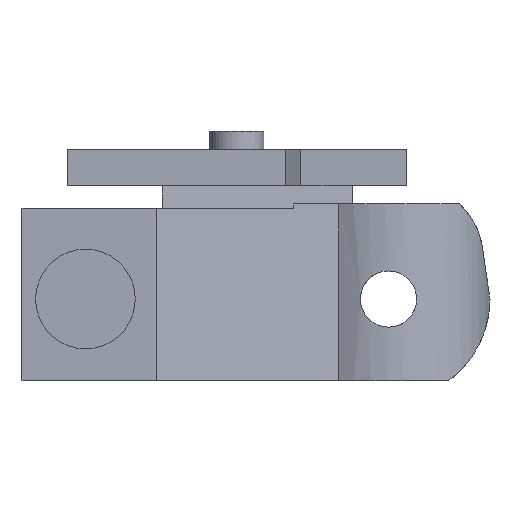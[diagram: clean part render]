
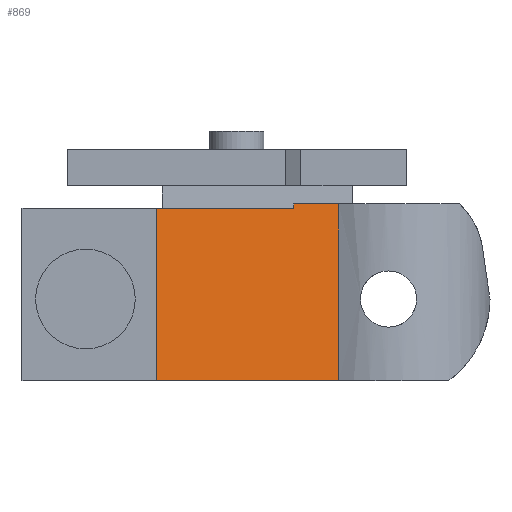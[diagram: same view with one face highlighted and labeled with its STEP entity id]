
A CAD part, front view. The second image highlights one B-rep face of the part: STEP entity #869.
In plain terms, the highlighted planar face has unit normal (0.255, -0.967, 0).
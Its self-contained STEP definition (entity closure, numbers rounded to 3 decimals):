
#40 = VECTOR ( 'NONE', #1418, 1000. ) ;
#116 = CARTESIAN_POINT ( 'NONE',  ( -11.025, -15.07, 36.5 ) ) ;
#121 = LINE ( 'NONE', #2401, #40 ) ;
#125 = CARTESIAN_POINT ( 'NONE',  ( 9.113, -9.75, 36.5 ) ) ;
#284 = ORIENTED_EDGE ( 'NONE', *, *, #3215, .F. ) ;
#437 = EDGE_CURVE ( 'NONE', #1628, #958, #734, .T. ) ;
#495 = VECTOR ( 'NONE', #2065, 1000. ) ;
#496 = CARTESIAN_POINT ( 'NONE',  ( -11.025, -15.07, 36.5 ) ) ;
#727 = VERTEX_POINT ( 'NONE', #1434 ) ;
#734 = LINE ( 'NONE', #1636, #2082 ) ;
#798 = CARTESIAN_POINT ( 'NONE',  ( -11.025, -15.07, 36. ) ) ;
#811 = EDGE_CURVE ( 'NONE', #1147, #3151, #121, .T. ) ;
#834 = AXIS2_PLACEMENT_3D ( 'NONE', #116, #1881, #914 ) ;
#869 = ADVANCED_FACE ( 'NONE', ( #2042 ), #3118, .T. ) ;
#914 = DIRECTION ( 'NONE',  ( 0.967, 0.255, 0. ) ) ;
#958 = VERTEX_POINT ( 'NONE', #2239 ) ;
#1099 = VECTOR ( 'NONE', #2404, 1000. ) ;
#1147 = VERTEX_POINT ( 'NONE', #2786 ) ;
#1252 = ORIENTED_EDGE ( 'NONE', *, *, #811, .T. ) ;
#1330 = CARTESIAN_POINT ( 'NONE',  ( 4.175, -11.055, 36. ) ) ;
#1418 = DIRECTION ( 'NONE',  ( 0., 0., 1. ) ) ;
#1434 = CARTESIAN_POINT ( 'NONE',  ( -11.025, -15.07, 17. ) ) ;
#1518 = EDGE_CURVE ( 'NONE', #1628, #727, #1651, .T. ) ;
#1573 = LINE ( 'NONE', #1330, #495 ) ;
#1628 = VERTEX_POINT ( 'NONE', #798 ) ;
#1636 = CARTESIAN_POINT ( 'NONE',  ( -11.025, -15.07, 36. ) ) ;
#1651 = LINE ( 'NONE', #496, #2544 ) ;
#1692 = LINE ( 'NONE', #2355, #2466 ) ;
#1768 = LINE ( 'NONE', #2394, #1099 ) ;
#1829 = EDGE_CURVE ( 'NONE', #3151, #2462, #1768, .T. ) ;
#1844 = DIRECTION ( 'NONE',  ( -0.967, -0.255, 0. ) ) ;
#1879 = DIRECTION ( 'NONE',  ( 0.967, 0.255, 0. ) ) ;
#1881 = DIRECTION ( 'NONE',  ( 0.255, -0.967, 0. ) ) ;
#1938 = ORIENTED_EDGE ( 'NONE', *, *, #437, .F. ) ;
#2042 = FACE_OUTER_BOUND ( 'NONE', #2659, .T. ) ;
#2065 = DIRECTION ( 'NONE',  ( 0., 0., 1. ) ) ;
#2082 = VECTOR ( 'NONE', #1879, 1000. ) ;
#2094 = ORIENTED_EDGE ( 'NONE', *, *, #1518, .T. ) ;
#2239 = CARTESIAN_POINT ( 'NONE',  ( 4.175, -11.055, 36. ) ) ;
#2290 = ORIENTED_EDGE ( 'NONE', *, *, #2336, .F. ) ;
#2336 = EDGE_CURVE ( 'NONE', #958, #2462, #1573, .T. ) ;
#2355 = CARTESIAN_POINT ( 'NONE',  ( 9.113, -9.75, 17. ) ) ;
#2394 = CARTESIAN_POINT ( 'NONE',  ( 9.113, -9.75, 36.5 ) ) ;
#2401 = CARTESIAN_POINT ( 'NONE',  ( 9.113, -9.75, 36.5 ) ) ;
#2404 = DIRECTION ( 'NONE',  ( -0.967, -0.255, 0. ) ) ;
#2462 = VERTEX_POINT ( 'NONE', #3189 ) ;
#2466 = VECTOR ( 'NONE', #1844, 1000. ) ;
#2544 = VECTOR ( 'NONE', #2563, 1000. ) ;
#2563 = DIRECTION ( 'NONE',  ( 0., 0., -1. ) ) ;
#2659 = EDGE_LOOP ( 'NONE', ( #2290, #1938, #2094, #284, #1252, #2949 ) ) ;
#2786 = CARTESIAN_POINT ( 'NONE',  ( 9.113, -9.75, 17. ) ) ;
#2949 = ORIENTED_EDGE ( 'NONE', *, *, #1829, .T. ) ;
#3118 = PLANE ( 'NONE',  #834 ) ;
#3151 = VERTEX_POINT ( 'NONE', #125 ) ;
#3189 = CARTESIAN_POINT ( 'NONE',  ( 4.175, -11.055, 36.5 ) ) ;
#3215 = EDGE_CURVE ( 'NONE', #1147, #727, #1692, .T. ) ;
